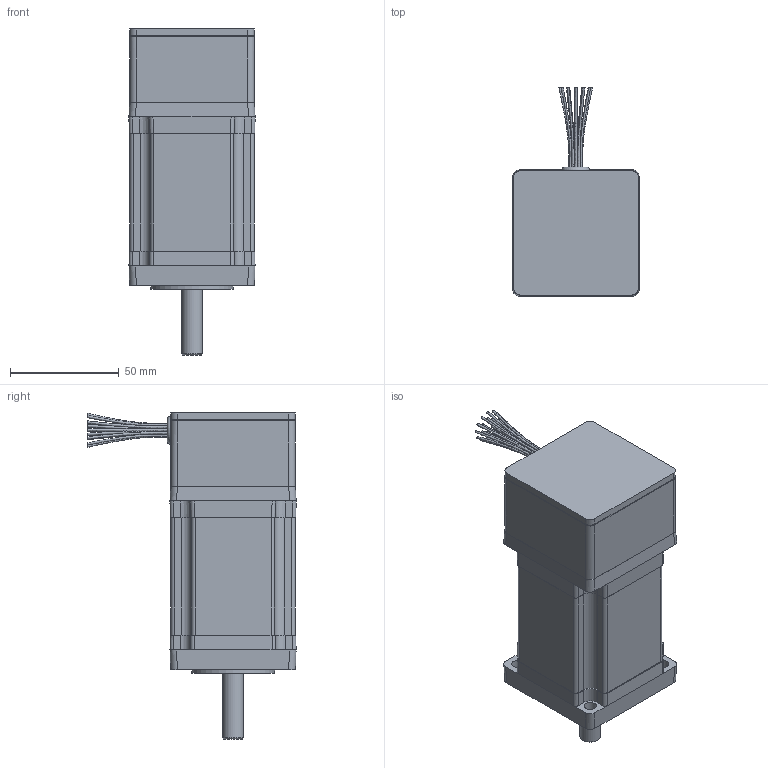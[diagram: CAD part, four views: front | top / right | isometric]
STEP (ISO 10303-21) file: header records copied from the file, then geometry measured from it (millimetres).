
FILE_DESCRIPTION((''),'2;1');
FILE_NAME('C:\CAD_work\Dummy_Modeling_Project_02-12-05\3D MODELS\BE232_FL.stp','2005-12-20T15:25:10',('jevans'),(''),'Autodesk Inventor 10','Autodesk Inventor 10','');
FILE_SCHEMA(('AUTOMOTIVE_DESIGN { 1 0 10303 214 1 1 1 1 }'));
Length unit declared in the file: inch
Products named in the file (1): BE23_FL
Bounding box: 57.95 x 95.65 x 149.76 mm (x, y, z)
Volume: 359977.4 mm3; surface area: 42163.5 mm2
Topology: 3 solids, 3 shells, 255 faces, 601 edges, 384 vertices
Faces by surface type: plane 139, cylinder 80, bspline 24, cone 8, torus 4
Full cylindrical faces by diameter (mm): 1.27 x2, 6.985 x1, 9.52 x1, 9.525 x1, 12.7 x1, 21.59 x1, 24.13 x1, 25.403 x1, 26 x1, 27.076 x1, 31.75 x3, 38.1 x1, 41.732 x1, 47.015 x1
Entity records: 9299 total; most frequent: CARTESIAN_POINT 3510, DIRECTION 1222, ORIENTED_EDGE 1118, EDGE_CURVE 559, AXIS2_PLACEMENT_3D 467, VERTEX_POINT 373, EDGE_LOOP 332, VECTOR 288
